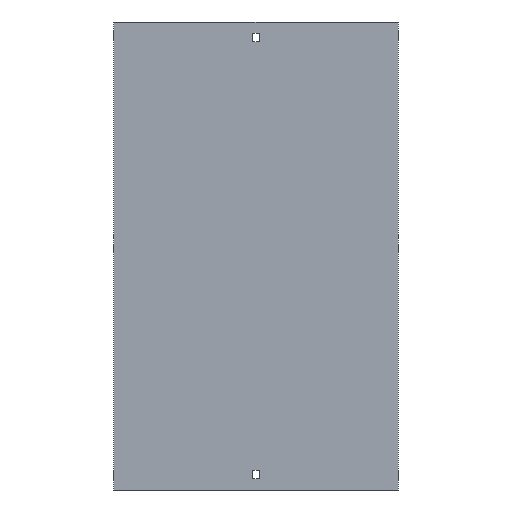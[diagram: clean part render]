
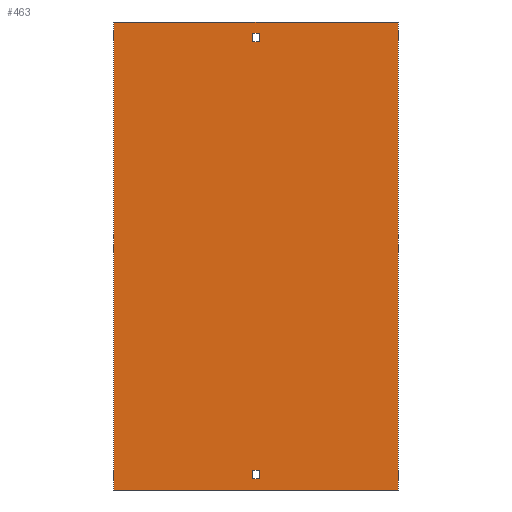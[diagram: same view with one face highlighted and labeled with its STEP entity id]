
A CAD part, front view. The second image highlights one B-rep face of the part: STEP entity #463.
In plain terms, the highlighted planar face has unit normal (0, -1, 0).
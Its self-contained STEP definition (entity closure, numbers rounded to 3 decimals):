
#28 = EDGE_CURVE ( 'NONE', #1005, #995, #689, .T. ) ;
#40 = VECTOR ( 'NONE', #1012, 1000. ) ;
#42 = CARTESIAN_POINT ( 'NONE',  ( 152., 0., -250. ) ) ;
#47 = LINE ( 'NONE', #828, #40 ) ;
#87 = DIRECTION ( 'NONE',  ( 0., 0., 1. ) ) ;
#94 = DIRECTION ( 'NONE',  ( 0., 1., 0. ) ) ;
#97 = ORIENTED_EDGE ( 'NONE', *, *, #336, .F. ) ;
#99 = LINE ( 'NONE', #793, #605 ) ;
#103 = DIRECTION ( 'NONE',  ( 1., 0., 0. ) ) ;
#105 = CARTESIAN_POINT ( 'NONE',  ( -152., 0., 250. ) ) ;
#118 = VECTOR ( 'NONE', #87, 1000. ) ;
#175 = EDGE_CURVE ( 'NONE', #371, #780, #726, .T. ) ;
#177 = LINE ( 'NONE', #703, #809 ) ;
#178 = EDGE_LOOP ( 'NONE', ( #822, #413, #281, #727 ) ) ;
#183 = DIRECTION ( 'NONE',  ( -1., 0., 0. ) ) ;
#204 = VERTEX_POINT ( 'NONE', #208 ) ;
#208 = CARTESIAN_POINT ( 'NONE',  ( -3.25, 0., -238. ) ) ;
#229 = DIRECTION ( 'NONE',  ( 0., 0., 1. ) ) ;
#235 = CARTESIAN_POINT ( 'NONE',  ( -3.25, 0., -238. ) ) ;
#246 = CARTESIAN_POINT ( 'NONE',  ( 3.25, 0., 238. ) ) ;
#248 = CARTESIAN_POINT ( 'NONE',  ( -152., 0., -250. ) ) ;
#259 = CARTESIAN_POINT ( 'NONE',  ( -3.25, 0., 238. ) ) ;
#280 = DIRECTION ( 'NONE',  ( -1., 0., 0. ) ) ;
#281 = ORIENTED_EDGE ( 'NONE', *, *, #175, .F. ) ;
#327 = EDGE_LOOP ( 'NONE', ( #658, #97, #353, #792 ) ) ;
#332 = DIRECTION ( 'NONE',  ( 0., 0., -1. ) ) ;
#336 = EDGE_CURVE ( 'NONE', #403, #585, #47, .T. ) ;
#347 = VECTOR ( 'NONE', #939, 1000. ) ;
#353 = ORIENTED_EDGE ( 'NONE', *, *, #887, .F. ) ;
#363 = VERTEX_POINT ( 'NONE', #248 ) ;
#371 = VERTEX_POINT ( 'NONE', #431 ) ;
#385 = DIRECTION ( 'NONE',  ( 0., 0., -1. ) ) ;
#388 = VECTOR ( 'NONE', #1026, 1000. ) ;
#403 = VERTEX_POINT ( 'NONE', #1027 ) ;
#413 = ORIENTED_EDGE ( 'NONE', *, *, #1023, .F. ) ;
#431 = CARTESIAN_POINT ( 'NONE',  ( 3.25, 0., 238. ) ) ;
#449 = VERTEX_POINT ( 'NONE', #105 ) ;
#460 = CARTESIAN_POINT ( 'NONE',  ( -152., 0., 250. ) ) ;
#463 = ADVANCED_FACE ( 'NONE', ( #898, #878, #717 ), #527, .F. ) ;
#495 = ORIENTED_EDGE ( 'NONE', *, *, #957, .T. ) ;
#519 = DIRECTION ( 'NONE',  ( 1., 0., 0. ) ) ;
#527 = PLANE ( 'NONE',  #1106 ) ;
#538 = CARTESIAN_POINT ( 'NONE',  ( -3.25, 0., 238. ) ) ;
#553 = ORIENTED_EDGE ( 'NONE', *, *, #28, .T. ) ;
#564 = CARTESIAN_POINT ( 'NONE',  ( 3.25, 0., 229. ) ) ;
#571 = CARTESIAN_POINT ( 'NONE',  ( -152., 0., 250. ) ) ;
#574 = VECTOR ( 'NONE', #739, 1000. ) ;
#578 = LINE ( 'NONE', #845, #574 ) ;
#585 = VERTEX_POINT ( 'NONE', #42 ) ;
#588 = VERTEX_POINT ( 'NONE', #667 ) ;
#589 = LINE ( 'NONE', #246, #118 ) ;
#593 = LINE ( 'NONE', #259, #347 ) ;
#605 = VECTOR ( 'NONE', #710, 1000. ) ;
#618 = VECTOR ( 'NONE', #103, 1000. ) ;
#634 = LINE ( 'NONE', #1072, #618 ) ;
#644 = ORIENTED_EDGE ( 'NONE', *, *, #749, .T. ) ;
#657 = LINE ( 'NONE', #756, #388 ) ;
#658 = ORIENTED_EDGE ( 'NONE', *, *, #1017, .T. ) ;
#667 = CARTESIAN_POINT ( 'NONE',  ( -3.25, 0., -229. ) ) ;
#677 = CARTESIAN_POINT ( 'NONE',  ( 3.25, 0., -238. ) ) ;
#680 = EDGE_LOOP ( 'NONE', ( #750, #644, #553, #495 ) ) ;
#682 = VECTOR ( 'NONE', #229, 1000. ) ;
#689 = LINE ( 'NONE', #677, #755 ) ;
#690 = CARTESIAN_POINT ( 'NONE',  ( -3.25, 0., 229. ) ) ;
#696 = VECTOR ( 'NONE', #280, 1000. ) ;
#703 = CARTESIAN_POINT ( 'NONE',  ( -152., 0., -250. ) ) ;
#710 = DIRECTION ( 'NONE',  ( 1., 0., 0. ) ) ;
#717 = FACE_BOUND ( 'NONE', #680, .T. ) ;
#726 = LINE ( 'NONE', #1069, #696 ) ;
#727 = ORIENTED_EDGE ( 'NONE', *, *, #1071, .F. ) ;
#739 = DIRECTION ( 'NONE',  ( -1., 0., 0. ) ) ;
#749 = EDGE_CURVE ( 'NONE', #588, #1005, #634, .T. ) ;
#750 = ORIENTED_EDGE ( 'NONE', *, *, #950, .T. ) ;
#755 = VECTOR ( 'NONE', #332, 1000. ) ;
#756 = CARTESIAN_POINT ( 'NONE',  ( -152., 0., 250. ) ) ;
#780 = VERTEX_POINT ( 'NONE', #538 ) ;
#792 = ORIENTED_EDGE ( 'NONE', *, *, #938, .T. ) ;
#793 = CARTESIAN_POINT ( 'NONE',  ( -3.25, 0., 229. ) ) ;
#809 = VECTOR ( 'NONE', #519, 1000. ) ;
#816 = EDGE_CURVE ( 'NONE', #1025, #968, #99, .T. ) ;
#822 = ORIENTED_EDGE ( 'NONE', *, *, #816, .F. ) ;
#828 = CARTESIAN_POINT ( 'NONE',  ( 152., 0., 250. ) ) ;
#845 = CARTESIAN_POINT ( 'NONE',  ( -3.25, 0., -238. ) ) ;
#878 = FACE_BOUND ( 'NONE', #178, .T. ) ;
#887 = EDGE_CURVE ( 'NONE', #449, #403, #657, .T. ) ;
#898 = FACE_OUTER_BOUND ( 'NONE', #327, .T. ) ;
#938 = EDGE_CURVE ( 'NONE', #449, #363, #1015, .T. ) ;
#939 = DIRECTION ( 'NONE',  ( 0., 0., -1. ) ) ;
#944 = CARTESIAN_POINT ( 'NONE',  ( 3.25, 0., -238. ) ) ;
#950 = EDGE_CURVE ( 'NONE', #204, #588, #1003, .T. ) ;
#956 = VECTOR ( 'NONE', #385, 1000. ) ;
#957 = EDGE_CURVE ( 'NONE', #995, #204, #578, .T. ) ;
#959 = CARTESIAN_POINT ( 'NONE',  ( 3.25, 0., -229. ) ) ;
#968 = VERTEX_POINT ( 'NONE', #564 ) ;
#995 = VERTEX_POINT ( 'NONE', #944 ) ;
#1003 = LINE ( 'NONE', #235, #682 ) ;
#1005 = VERTEX_POINT ( 'NONE', #959 ) ;
#1012 = DIRECTION ( 'NONE',  ( 0., 0., -1. ) ) ;
#1015 = LINE ( 'NONE', #571, #956 ) ;
#1017 = EDGE_CURVE ( 'NONE', #363, #585, #177, .T. ) ;
#1023 = EDGE_CURVE ( 'NONE', #780, #1025, #593, .T. ) ;
#1025 = VERTEX_POINT ( 'NONE', #690 ) ;
#1026 = DIRECTION ( 'NONE',  ( 1., 0., 0. ) ) ;
#1027 = CARTESIAN_POINT ( 'NONE',  ( 152., 0., 250. ) ) ;
#1069 = CARTESIAN_POINT ( 'NONE',  ( -3.25, 0., 238. ) ) ;
#1071 = EDGE_CURVE ( 'NONE', #968, #371, #589, .T. ) ;
#1072 = CARTESIAN_POINT ( 'NONE',  ( -3.25, 0., -229. ) ) ;
#1106 = AXIS2_PLACEMENT_3D ( 'NONE', #460, #94, #183 ) ;
